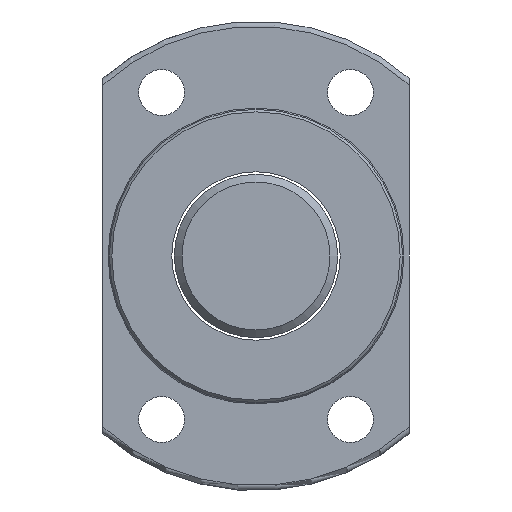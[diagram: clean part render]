
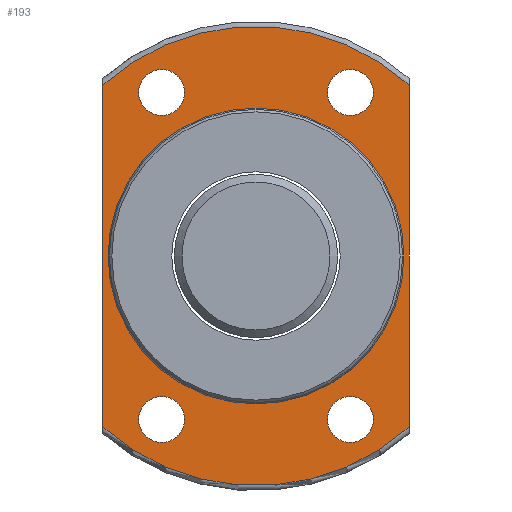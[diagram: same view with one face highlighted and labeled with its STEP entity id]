
A CAD part, left-side view. The second image highlights one B-rep face of the part: STEP entity #193.
In plain terms, the highlighted planar face has unit normal (-1, 0, 0).
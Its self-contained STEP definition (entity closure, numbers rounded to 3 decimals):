
#101=LINE('',#967,#109);
#102=LINE('',#968,#110);
#109=VECTOR('',#776,1.);
#110=VECTOR('',#777,1.);
#144=PLANE('',#640);
#166=FACE_OUTER_BOUND('',#314,.T.);
#193=ADVANCED_FACE('',(#244,#245,#246,#247,#248,#166),#144,.F.);
#244=FACE_BOUND('',#309,.T.);
#245=FACE_BOUND('',#310,.T.);
#246=FACE_BOUND('',#311,.T.);
#247=FACE_BOUND('',#312,.T.);
#248=FACE_BOUND('',#313,.T.);
#309=EDGE_LOOP('',(#400));
#310=EDGE_LOOP('',(#401));
#311=EDGE_LOOP('',(#402));
#312=EDGE_LOOP('',(#403));
#313=EDGE_LOOP('',(#404));
#314=EDGE_LOOP('',(#405,#406,#407,#408));
#400=ORIENTED_EDGE('',*,*,#534,.T.);
#401=ORIENTED_EDGE('',*,*,#535,.T.);
#402=ORIENTED_EDGE('',*,*,#536,.T.);
#403=ORIENTED_EDGE('',*,*,#537,.T.);
#404=ORIENTED_EDGE('',*,*,#538,.T.);
#405=ORIENTED_EDGE('',*,*,#532,.F.);
#406=ORIENTED_EDGE('',*,*,#539,.T.);
#407=ORIENTED_EDGE('',*,*,#516,.F.);
#408=ORIENTED_EDGE('',*,*,#540,.F.);
#467=VERTEX_POINT('',#893);
#468=VERTEX_POINT('',#900);
#480=VERTEX_POINT('',#947);
#481=VERTEX_POINT('',#949);
#482=VERTEX_POINT('',#958);
#483=VERTEX_POINT('',#960);
#484=VERTEX_POINT('',#962);
#485=VERTEX_POINT('',#964);
#486=VERTEX_POINT('',#966);
#516=EDGE_CURVE('',#468,#467,#564,.T.);
#532=EDGE_CURVE('',#480,#481,#573,.T.);
#534=EDGE_CURVE('',#482,#482,#574,.T.);
#535=EDGE_CURVE('',#483,#483,#575,.T.);
#536=EDGE_CURVE('',#484,#484,#576,.T.);
#537=EDGE_CURVE('',#485,#485,#577,.T.);
#538=EDGE_CURVE('',#486,#486,#578,.T.);
#539=EDGE_CURVE('',#480,#467,#101,.T.);
#540=EDGE_CURVE('',#481,#468,#102,.T.);
#564=CIRCLE('',#620,45.);
#573=CIRCLE('',#633,45.);
#574=CIRCLE('',#635,29.);
#575=CIRCLE('',#636,4.5);
#576=CIRCLE('',#637,4.5);
#577=CIRCLE('',#638,4.5);
#578=CIRCLE('',#639,4.5);
#620=AXIS2_PLACEMENT_3D('',#901,#732,#733);
#633=AXIS2_PLACEMENT_3D('',#948,#762,#763);
#635=AXIS2_PLACEMENT_3D('',#957,#766,#767);
#636=AXIS2_PLACEMENT_3D('',#959,#768,#769);
#637=AXIS2_PLACEMENT_3D('',#961,#770,#771);
#638=AXIS2_PLACEMENT_3D('',#963,#772,#773);
#639=AXIS2_PLACEMENT_3D('',#965,#774,#775);
#640=AXIS2_PLACEMENT_3D('',#969,#778,#779);
#732=DIRECTION('',(1.,0.,0.));
#733=DIRECTION('',(0.,1.,0.));
#762=DIRECTION('',(1.,0.,0.));
#763=DIRECTION('',(0.,1.,0.));
#766=DIRECTION('',(1.,0.,0.));
#767=DIRECTION('',(0.,1.,0.));
#768=DIRECTION('',(1.,0.,0.));
#769=DIRECTION('',(0.,1.,0.));
#770=DIRECTION('',(1.,0.,0.));
#771=DIRECTION('',(0.,1.,0.));
#772=DIRECTION('',(1.,0.,0.));
#773=DIRECTION('',(0.,1.,0.));
#774=DIRECTION('',(1.,0.,0.));
#775=DIRECTION('',(0.,1.,0.));
#776=DIRECTION('',(0.,0.,-1.));
#777=DIRECTION('',(0.,0.,-1.));
#778=DIRECTION('',(1.,0.,0.));
#779=DIRECTION('',(0.,1.,0.));
#893=CARTESIAN_POINT('',(-44.,30.,-33.541));
#900=CARTESIAN_POINT('',(-44.,-30.,-33.541));
#901=CARTESIAN_POINT('',(-44.,0.,0.));
#947=CARTESIAN_POINT('',(-44.,30.,33.541));
#948=CARTESIAN_POINT('',(-44.,0.,0.));
#949=CARTESIAN_POINT('',(-44.,-30.,33.541));
#957=CARTESIAN_POINT('',(-44.,0.,0.));
#958=CARTESIAN_POINT('',(-44.,29.,0.));
#959=CARTESIAN_POINT('',(-44.,18.5,32.043));
#960=CARTESIAN_POINT('',(-44.,23.,32.043));
#961=CARTESIAN_POINT('',(-44.,-18.5,32.043));
#962=CARTESIAN_POINT('',(-44.,-14.,32.043));
#963=CARTESIAN_POINT('',(-44.,-18.5,-32.043));
#964=CARTESIAN_POINT('',(-44.,-14.,-32.043));
#965=CARTESIAN_POINT('',(-44.,18.5,-32.043));
#966=CARTESIAN_POINT('',(-44.,23.,-32.043));
#967=CARTESIAN_POINT('',(-44.,30.,0.));
#968=CARTESIAN_POINT('',(-44.,-30.,0.));
#969=CARTESIAN_POINT('',(-44.,37.,0.));
